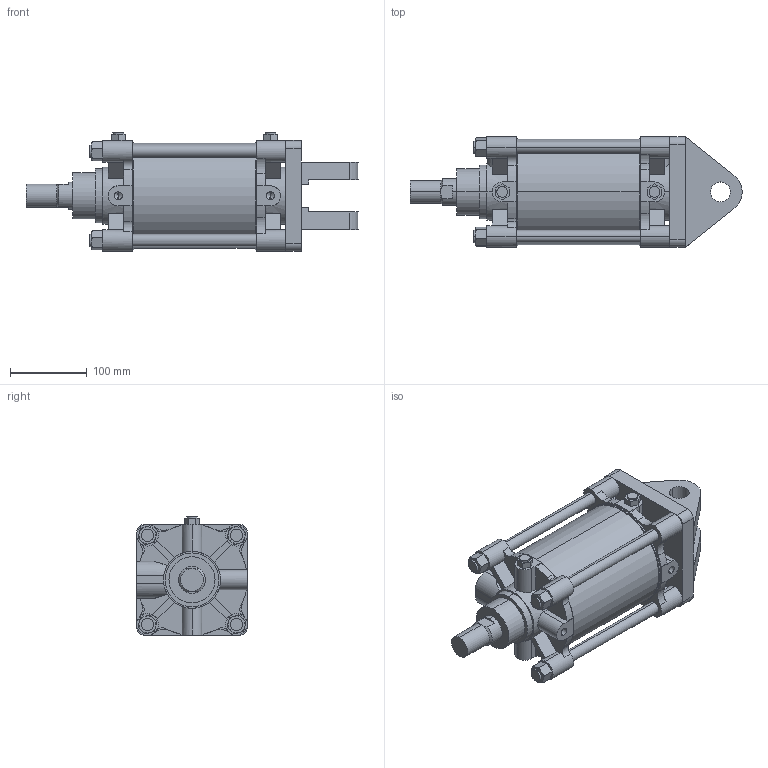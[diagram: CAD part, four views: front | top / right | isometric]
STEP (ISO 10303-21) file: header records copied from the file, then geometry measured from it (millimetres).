
FILE_DESCRIPTION (( 'STEP AP203' ), '1' );
FILE_NAME ('A##2-125#-100-W.STEP', '2016-03-31T06:52:13', ( '' ), ( '' ), 'SwSTEP 2.0', 'SolidWorks 2014', '' );
FILE_SCHEMA (( 'CONFIG_CONTROL_DESIGN' ));
Length unit declared in the file: millimetre
Products named in the file (7): A##2-125#-100-W; A125-W; A125-100; A125-B; A125-A
Assembly tree (12 placements, depth 2):
  A##2-125#-100-W
    A125-B
    A125-100
    A125-A
    (unnamed)  x4
    (unnamed)  x4
    A125-W
Bounding box: 431.91 x 144 x 154 mm (x, y, z)
Volume: 4338221.2 mm3; surface area: 430466.4 mm2
Topology: 12 solids, 14 shells, 365 faces, 932 edges, 598 vertices
Faces by surface type: plane 173, cylinder 152, torus 24, cone 16
Entity records: 10894 total; most frequent: CARTESIAN_POINT 2173, DIRECTION 1734, ORIENTED_EDGE 1588, EDGE_CURVE 794, AXIS2_PLACEMENT_3D 654, VERTEX_POINT 520, VECTOR 426, LINE 426
